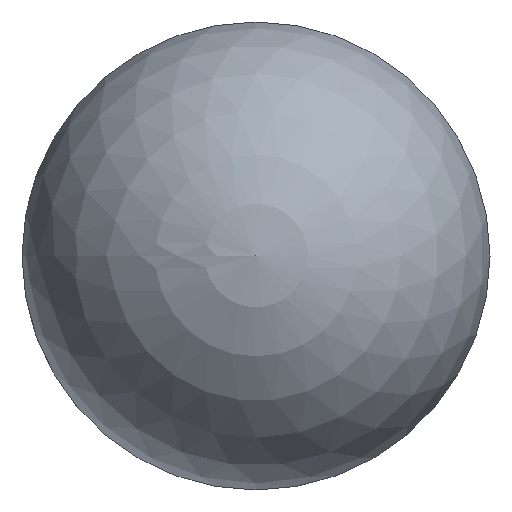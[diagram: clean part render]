
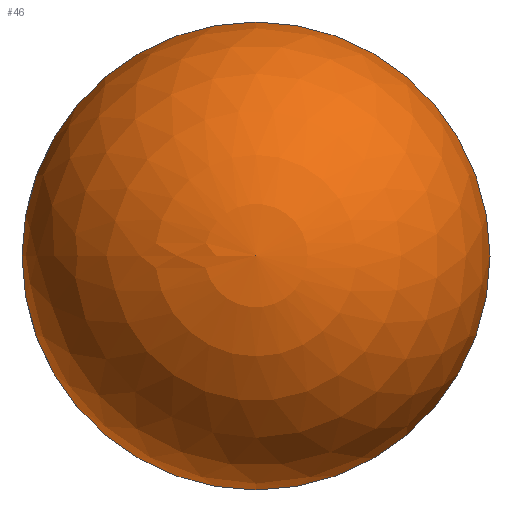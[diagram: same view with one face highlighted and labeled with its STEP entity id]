
A CAD part, top view. The second image highlights one B-rep face of the part: STEP entity #46.
In plain terms, the highlighted spherical face has radius 18 mm.
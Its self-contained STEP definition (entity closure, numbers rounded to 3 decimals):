
#20=CARTESIAN_POINT('',(0.,0.,42.));
#21=DIRECTION('',(-1.,0.,0.));
#22=DIRECTION('',(0.,0.,1.));
#23=AXIS2_PLACEMENT_3D('',#20,#22,#21);
#24=SPHERICAL_SURFACE('',#23,18.);
#25=CARTESIAN_POINT('',(0.,0.,60.));
#26=VERTEX_POINT('',#25);
#27=CARTESIAN_POINT('',(-17.999,0.,42.193));
#28=VERTEX_POINT('',#27);
#29=CARTESIAN_POINT('',(0.,0.,42.));
#30=DIRECTION('',(0.,0.,1.));
#31=DIRECTION('',(0.,-1.,-0.));
#32=AXIS2_PLACEMENT_3D('',#29,#31,#30);
#33=CIRCLE('',#32,18.);
#34=EDGE_CURVE('',#26,#28,#33,.T.);
#35=ORIENTED_EDGE('E1',*,*,#34,.T.);
#36=CARTESIAN_POINT('',(0.,0.,42.193));
#37=DIRECTION('',(-1.,-0.,0.));
#38=DIRECTION('',(0.,0.,1.));
#39=AXIS2_PLACEMENT_3D('',#36,#38,#37);
#40=CIRCLE('',#39,17.999);
#41=EDGE_CURVE('',#28,#28,#40,.T.);
#42=ORIENTED_EDGE('E5',*,*,#41,.T.);
#43=ORIENTED_EDGE('E5',*,*,#34,.F.);
#44=EDGE_LOOP('',(#35,#42,#43));
#45=FACE_OUTER_BOUND('',#44,.T.);
#46=ADVANCED_FACE('F1',(#45),#24,.T.);
